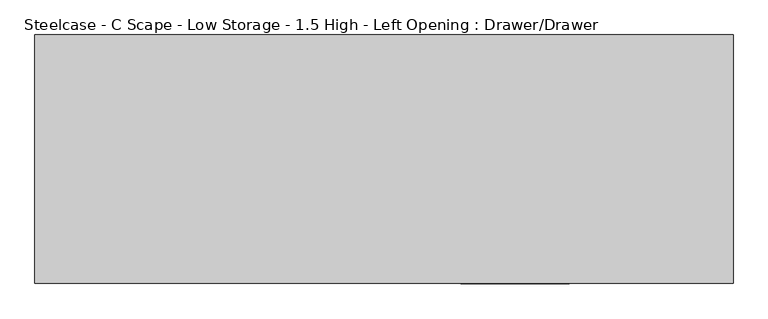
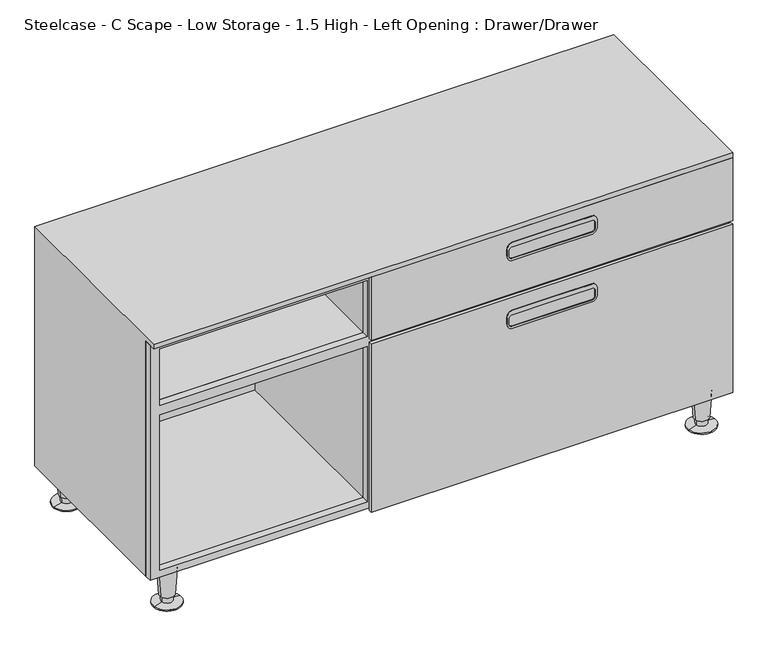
"""IFC4 building model written with IfcOpenShell, lengths in millimetres: furniture geometry, Steelcase - C Scape - Low Storage - 1.5 High - Left Opening : Drawer/Drawer."""

from ifc_helpers import new_model, si_unit, point, frame, frame_2d, origin, place, context, project, spatial, polyline, circle_curve, trimmed, segment, composite_curve, outline, extrude, faceted_brep, source, transform, mapped, element, save
from ifc_brep_helpers import plane_surface, cylinder_surface, revolved_surface, advanced_brep


def steelcase_c_scape_low_storage_1_5_high_left_opening_drawer_81e19a48(model_context):
    return source(origin(), model_context, "Body", "SolidModel", [
        extrude(outline(polyline([(76.2, 0.0), (76.2, 1217.93), (599.4400097, 1217.93), (599.4400097, 0.0), (76.2, 0.0)]), holes=[polyline([(91.4201587, 20.700907), (436.8419, 20.700907), (436.8419, 457.2), (91.4201587, 457.2), (91.4201587, 20.700907)]), polyline([(583.5451587, 1195.959248), (458.7875121, 1195.959248), (458.7875121, 478.1549612), (583.5451587, 478.1549612), (583.5451587, 1195.959248)]), polyline([(458.7875121, 20.700907), (583.5451587, 20.700907), (583.5451587, 457.2), (458.7875121, 457.2), (458.7875121, 20.700907)]), polyline([(91.4201587, 1195.959248), (91.4201587, 478.1549612), (436.8419, 478.1549612), (436.8419, 1195.959248), (91.4201587, 1195.959248)])]), frame((0.0, -419.3540543, 0.0), z_axis=(0.0, 1.0, 0.0), x_axis=(0.0, 0.0, 1.0)), (0.0, 0.0, 1.0), 14.9860039),
        extrude(outline(composite_curve([segment(trimmed(circle_curve(frame_2d((560.7050073, 755.3322442)), 12.7), [point((573.4050073, 755.3322442))], [point((560.7050073, 742.6322442))], False, "CARTESIAN"), True, "CONTINUOUS"), segment(polyline([(560.7050073, 742.6322442), (546.1000363, 742.6322442)]), True, "CONTINUOUS"), segment(trimmed(circle_curve(frame_2d((546.1000363, 755.3322442)), 12.7), [point((546.1000363, 742.6322442))], [point((533.4000363, 755.3322442))], False, "CARTESIAN"), True, "CONTINUOUS"), segment(polyline([(533.4000363, 755.3322442), (533.4000363, 837.565), (533.4000363, 919.7977558)]), True, "CONTINUOUS"), segment(trimmed(circle_curve(frame_2d((546.1000363, 919.7977558)), 12.7), [point((533.4000363, 919.7977558))], [point((546.1000363, 932.4977558))], False, "CARTESIAN"), True, "CONTINUOUS"), segment(polyline([(546.1000363, 932.4977558), (560.7050073, 932.4977558)]), True, "CONTINUOUS"), segment(trimmed(circle_curve(frame_2d((560.7050073, 919.7977558)), 12.7), [point((560.7050073, 932.4977558))], [point((573.4050073, 919.7977558))], False, "CARTESIAN"), True, "CONTINUOUS"), segment(polyline([(573.4050073, 919.7977558), (573.4050073, 837.565), (573.4050073, 755.3322442)]), True, "CONTINUOUS")], self_intersect=False), holes=[composite_curve([segment(trimmed(circle_curve(frame_2d((557.2760257, 753.8098565)), 6.35), [point((557.2760257, 747.4598565))], [point((563.6260257, 753.8098565))], True, "CARTESIAN"), True, "CONTINUOUS"), segment(polyline([(563.6260257, 753.8098565), (563.6260257, 837.565), (563.6260257, 921.3201435)]), True, "CONTINUOUS"), segment(trimmed(circle_curve(frame_2d((557.2760257, 921.3201435)), 6.35), [point((563.6260257, 921.3201435))], [point((557.2760257, 927.6701435))], True, "CARTESIAN"), True, "CONTINUOUS"), segment(polyline([(557.2760257, 927.6701435), (544.5760136, 927.6701435)]), True, "CONTINUOUS"), segment(trimmed(circle_curve(frame_2d((544.5760136, 921.3201435)), 6.35), [point((544.5760136, 927.6701435))], [point((538.2260136, 921.3201435))], True, "CARTESIAN"), True, "CONTINUOUS"), segment(polyline([(538.2260136, 921.3201435), (538.2260136, 837.565), (538.2260136, 753.8098565)]), True, "CONTINUOUS"), segment(trimmed(circle_curve(frame_2d((544.5760136, 753.8098565)), 6.35), [point((538.2260136, 753.8098565))], [point((544.5760136, 747.4598565))], True, "CARTESIAN"), True, "CONTINUOUS"), segment(polyline([(544.5760136, 747.4598565), (557.2760257, 747.4598565)]), True, "CONTINUOUS")], self_intersect=False)]), frame((0.0, -434.34, 0.0), z_axis=(0.0, 1.0, 0.0), x_axis=(0.0, 0.0, 1.0)), (0.0, 0.0, 1.0), 6.35),
        extrude(outline(composite_curve([segment(trimmed(circle_curve(frame_2d((409.5749879, 755.3322442)), 12.7), [point((422.2749879, 755.3322442))], [point((409.5749879, 742.6322442))], False, "CARTESIAN"), True, "CONTINUOUS"), segment(polyline([(409.5749879, 742.6322442), (394.970017, 742.6322442)]), True, "CONTINUOUS"), segment(trimmed(circle_curve(frame_2d((394.970017, 755.3322442)), 12.7), [point((394.970017, 742.6322442))], [point((382.270017, 755.3322442))], False, "CARTESIAN"), True, "CONTINUOUS"), segment(polyline([(382.270017, 755.3322442), (382.270017, 837.565), (382.270017, 919.7977558)]), True, "CONTINUOUS"), segment(trimmed(circle_curve(frame_2d((394.970017, 919.7977558)), 12.7), [point((382.270017, 919.7977558))], [point((394.970017, 932.4977558))], False, "CARTESIAN"), True, "CONTINUOUS"), segment(polyline([(394.970017, 932.4977558), (409.5749879, 932.4977558)]), True, "CONTINUOUS"), segment(trimmed(circle_curve(frame_2d((409.5749879, 919.7977558)), 12.7), [point((409.5749879, 932.4977558))], [point((422.2749879, 919.7977558))], False, "CARTESIAN"), True, "CONTINUOUS"), segment(polyline([(422.2749879, 919.7977558), (422.2749879, 837.565), (422.2749879, 755.3322442)]), True, "CONTINUOUS")], self_intersect=False), holes=[composite_curve([segment(trimmed(circle_curve(frame_2d((406.1460063, 753.8098565)), 6.35), [point((406.1460063, 747.4598565))], [point((412.4960063, 753.8098565))], True, "CARTESIAN"), True, "CONTINUOUS"), segment(polyline([(412.4960063, 753.8098565), (412.4960063, 837.565), (412.4960063, 921.3201435)]), True, "CONTINUOUS"), segment(trimmed(circle_curve(frame_2d((406.1460063, 921.3201435)), 6.35), [point((412.4960063, 921.3201435))], [point((406.1460063, 927.6701435))], True, "CARTESIAN"), True, "CONTINUOUS"), segment(polyline([(406.1460063, 927.6701435), (393.4459942, 927.6701435)]), True, "CONTINUOUS"), segment(trimmed(circle_curve(frame_2d((393.4459942, 921.3201435)), 6.35), [point((393.4459942, 927.6701435))], [point((387.0959942, 921.3201435))], True, "CARTESIAN"), True, "CONTINUOUS"), segment(polyline([(387.0959942, 921.3201435), (387.0959942, 837.565), (387.0959942, 753.8098565)]), True, "CONTINUOUS"), segment(trimmed(circle_curve(frame_2d((393.4459942, 753.8098565)), 6.35), [point((387.0959942, 753.8098565))], [point((393.4459942, 747.4598565))], True, "CARTESIAN"), True, "CONTINUOUS"), segment(polyline([(393.4459942, 747.4598565), (406.1460063, 747.4598565)]), True, "CONTINUOUS")], self_intersect=False)]), frame((0.0, -434.34, 0.0), z_axis=(0.0, 1.0, 0.0), x_axis=(0.0, 0.0, 1.0)), (0.0, 0.0, 1.0), 6.35),
        advanced_brep(
        [(1190.0494568, -31.5218435, 76.2), (1152.3877179, -37.2840847, 76.2), (1171.2185874, -34.4029641, 76.2), (1186.0991088, -32.1262463, 19.05), (1156.3380659, -36.6796819, 19.05), (1183.6695219, -32.4979728, 19.05), (1158.7676529, -36.3079555, 19.05), (1182.9807524, -32.6033544, 5.7545598), (1159.4564224, -36.2025738, 5.7545598), (1200.3296359, -29.9489775, 2.5119506), (1142.1075389, -38.8569507, 2.5119506), (1200.3296359, -29.9489775, 0.0), (1142.1075389, -38.8569507, 0.0), (1171.2185874, -34.4029641, 0.0)],
        [
            (0, 1, circle_curve(frame((1171.2185874, -34.4029641, 76.2), z_axis=(0.0, 0.0, 1.0), x_axis=(0.0, -1.0, 0.0)), 19.05)),
            (1, 2),
            (2, 0),
            (1, 0, circle_curve(frame((1171.2185874, -34.4029641, 76.2), z_axis=(0.0, 0.0, 1.0), x_axis=(0.0, -1.0, 0.0)), 19.05)),
            (3, 4, circle_curve(frame((1171.2185874, -34.4029641, 19.05), z_axis=(0.0, 0.0, 1.0), x_axis=(0.0, -1.0, 0.0)), 15.0536827)),
            (4, 1),
            (0, 3),
            (4, 3, circle_curve(frame((1171.2185874, -34.4029641, 19.05), z_axis=(0.0, 0.0, 1.0), x_axis=(0.0, -1.0, 0.0)), 15.0536827)),
            (5, 6, circle_curve(frame((1171.2185874, -34.4029641, 19.05), z_axis=(0.0, 0.0, 1.0), x_axis=(0.0, -1.0, 0.0)), 12.5958232)),
            (6, 4),
            (3, 5),
            (6, 5, circle_curve(frame((1171.2185874, -34.4029641, 19.05), z_axis=(0.0, 0.0, 1.0), x_axis=(0.0, -1.0, 0.0)), 12.5958232)),
            (7, 8, circle_curve(frame((1171.2185874, -34.4029641, 5.7545598), z_axis=(0.0, 0.0, 1.0), x_axis=(0.0, -1.0, 0.0)), 11.8990387)),
            (8, 6),
            (5, 7),
            (8, 7, circle_curve(frame((1171.2185874, -34.4029641, 5.7545598), z_axis=(0.0, 0.0, 1.0), x_axis=(0.0, -1.0, 0.0)), 11.8990387)),
            (9, 10, circle_curve(frame((1171.2185874, -34.4029641, 2.5119506), z_axis=(0.0, 0.0, 1.0), x_axis=(0.0, -1.0, 0.0)), 29.4498071)),
            (10, 8),
            (7, 9),
            (10, 9, circle_curve(frame((1171.2185874, -34.4029641, 2.5119506), z_axis=(0.0, 0.0, 1.0), x_axis=(0.0, -1.0, 0.0)), 29.4498071)),
            (11, 12, circle_curve(frame((1171.2185874, -34.4029641, 0.0), z_axis=(0.0, 0.0, 1.0), x_axis=(0.0, -1.0, 0.0)), 29.4498071)),
            (12, 10),
            (9, 11),
            (12, 11, circle_curve(frame((1171.2185874, -34.4029641, 0.0), z_axis=(0.0, 0.0, 1.0), x_axis=(0.0, -1.0, 0.0)), 29.4498071)),
            (13, 12),
            (11, 13),
        ],
        [
            plane_surface(frame((1171.2185874, -34.4029641, 76.2), z_axis=(0.0, 0.0, 1.0), x_axis=(0.0, -1.0, 0.0))),
            revolved_surface(polyline([(1171.2185874, -53.4529641, 76.2), (1171.2185874, -49.4566468, 19.05)]), (1171.2185874, -34.4029641, 25.4), (0.0, 0.0, -1.0)),
            plane_surface(frame((1171.2185874, -34.4029641, 19.05), z_axis=(0.0, 0.0, -1.0), x_axis=(0.0, -1.0, 0.0))),
            revolved_surface(polyline([(1171.2185874, -46.9987873, 19.05), (1171.2185874, -46.3020028, 5.7545598)]), (1171.2185874, -34.4029641, 25.4), (0.0, 0.0, -1.0)),
            revolved_surface(polyline([(1171.2185874, -46.3020028, 5.7545598), (1171.2185874, -63.8527712, 2.5119506)]), (1171.2185874, -34.4029641, 25.4), (0.0, 0.0, -1.0)),
            cylinder_surface(frame((1171.2185874, -34.4029641, 25.4), z_axis=(0.0, 0.0, -1.0), x_axis=(0.0, -1.0, 0.0)), 29.4498071),
            plane_surface(frame((1171.2185874, -34.4029641, 0.0), z_axis=(0.0, 0.0, -1.0), x_axis=(0.0, -1.0, 0.0))),
        ],
        [
            (0, [[1, 2, 3]]),
            (0, [[4, -3, -2]]),
            (1, [[5, 6, -1, 7]]),
            (1, [[8, -7, -4, -6]]),
            (2, [[9, 10, -5, 11]]),
            (2, [[12, -11, -8, -10]]),
            (3, [[13, 14, -9, 15]]),
            (3, [[16, -15, -12, -14]]),
            (4, [[17, 18, -13, 19]]),
            (4, [[20, -19, -16, -18]]),
            (5, [[21, 22, -17, 23]]),
            (5, [[24, -23, -20, -22]]),
            (6, [[25, -21, 26]]),
            (6, [[-26, -24, -25]]),
        ],
    ),
        advanced_brep(
        [(1190.0494568, -397.1702762, 76.2), (1152.3877179, -402.9325174, 76.2), (1171.2185874, -400.0513968, 76.2), (1186.0991088, -397.774679, 19.05), (1156.3380659, -402.3281146, 19.05), (1183.6695219, -398.1464055, 19.05), (1158.7676529, -401.9563882, 19.05), (1182.9807524, -398.2517871, 5.7545598), (1159.4564224, -401.8510065, 5.7545598), (1200.3296359, -395.5974102, 2.5119506), (1142.1075389, -404.5053834, 2.5119506), (1200.3296359, -395.5974102, 0.0), (1142.1075389, -404.5053834, 0.0), (1171.2185874, -400.0513968, 0.0)],
        [
            (0, 1, circle_curve(frame((1171.2185874, -400.0513968, 76.2), z_axis=(0.0, 0.0, 1.0), x_axis=(0.0, -1.0, 0.0)), 19.05)),
            (1, 2),
            (2, 0),
            (1, 0, circle_curve(frame((1171.2185874, -400.0513968, 76.2), z_axis=(0.0, 0.0, 1.0), x_axis=(0.0, -1.0, 0.0)), 19.05)),
            (3, 4, circle_curve(frame((1171.2185874, -400.0513968, 19.05), z_axis=(0.0, 0.0, 1.0), x_axis=(0.0, -1.0, 0.0)), 15.0536827)),
            (4, 1),
            (0, 3),
            (4, 3, circle_curve(frame((1171.2185874, -400.0513968, 19.05), z_axis=(0.0, 0.0, 1.0), x_axis=(0.0, -1.0, 0.0)), 15.0536827)),
            (5, 6, circle_curve(frame((1171.2185874, -400.0513968, 19.05), z_axis=(0.0, 0.0, 1.0), x_axis=(0.0, -1.0, 0.0)), 12.5958232)),
            (6, 4),
            (3, 5),
            (6, 5, circle_curve(frame((1171.2185874, -400.0513968, 19.05), z_axis=(0.0, 0.0, 1.0), x_axis=(0.0, -1.0, 0.0)), 12.5958232)),
            (7, 8, circle_curve(frame((1171.2185874, -400.0513968, 5.7545598), z_axis=(0.0, 0.0, 1.0), x_axis=(0.0, -1.0, 0.0)), 11.8990387)),
            (8, 6),
            (5, 7),
            (8, 7, circle_curve(frame((1171.2185874, -400.0513968, 5.7545598), z_axis=(0.0, 0.0, 1.0), x_axis=(0.0, -1.0, 0.0)), 11.8990387)),
            (9, 10, circle_curve(frame((1171.2185874, -400.0513968, 2.5119506), z_axis=(0.0, 0.0, 1.0), x_axis=(0.0, -1.0, 0.0)), 29.4498071)),
            (10, 8),
            (7, 9),
            (10, 9, circle_curve(frame((1171.2185874, -400.0513968, 2.5119506), z_axis=(0.0, 0.0, 1.0), x_axis=(0.0, -1.0, 0.0)), 29.4498071)),
            (11, 12, circle_curve(frame((1171.2185874, -400.0513968, 0.0), z_axis=(0.0, 0.0, 1.0), x_axis=(0.0, -1.0, 0.0)), 29.4498071)),
            (12, 10),
            (9, 11),
            (12, 11, circle_curve(frame((1171.2185874, -400.0513968, 0.0), z_axis=(0.0, 0.0, 1.0), x_axis=(0.0, -1.0, 0.0)), 29.4498071)),
            (13, 12),
            (11, 13),
        ],
        [
            plane_surface(frame((1171.2185874, -400.0513968, 76.2), z_axis=(0.0, 0.0, 1.0), x_axis=(0.0, -1.0, 0.0))),
            revolved_surface(polyline([(1171.2185874, -419.1013968, 76.2), (1171.2185874, -415.1050795, 19.05)]), (1171.2185874, -400.0513968, 25.4), (0.0, 0.0, -1.0)),
            plane_surface(frame((1171.2185874, -400.0513968, 19.05), z_axis=(0.0, 0.0, -1.0), x_axis=(0.0, -1.0, 0.0))),
            revolved_surface(polyline([(1171.2185874, -412.64722, 19.05), (1171.2185874, -411.9504355, 5.7545598)]), (1171.2185874, -400.0513968, 25.4), (0.0, 0.0, -1.0)),
            revolved_surface(polyline([(1171.2185874, -411.9504355, 5.7545598), (1171.2185874, -429.5012039, 2.5119506)]), (1171.2185874, -400.0513968, 25.4), (0.0, 0.0, -1.0)),
            cylinder_surface(frame((1171.2185874, -400.0513968, 25.4), z_axis=(0.0, 0.0, -1.0), x_axis=(0.0, -1.0, 0.0)), 29.4498071),
            plane_surface(frame((1171.2185874, -400.0513968, 0.0), z_axis=(0.0, 0.0, -1.0), x_axis=(0.0, -1.0, 0.0))),
        ],
        [
            (0, [[1, 2, 3]]),
            (0, [[4, -3, -2]]),
            (1, [[5, 6, -1, 7]]),
            (1, [[8, -7, -4, -6]]),
            (2, [[9, 10, -5, 11]]),
            (2, [[12, -11, -8, -10]]),
            (3, [[13, 14, -9, 15]]),
            (3, [[16, -15, -12, -14]]),
            (4, [[17, 18, -13, 19]]),
            (4, [[20, -19, -16, -18]]),
            (5, [[21, 22, -17, 23]]),
            (5, [[24, -23, -20, -22]]),
            (6, [[25, -21, 26]]),
            (6, [[-26, -24, -25]]),
        ],
    ),
        advanced_brep(
        [(65.6621195, -397.1702762, 76.2), (28.0003805, -402.9325174, 76.2), (46.83125, -400.0513968, 76.2), (61.7117714, -397.774679, 19.05), (31.9507286, -402.3281146, 19.05), (59.2821845, -398.1464055, 19.05), (34.3803155, -401.9563882, 19.05), (58.593415, -398.2517871, 5.7545598), (35.069085, -401.8510065, 5.7545598), (75.9422985, -395.5974102, 2.5119506), (17.7202015, -404.5053834, 2.5119506), (75.9422985, -395.5974102, 0.0), (17.7202015, -404.5053834, 0.0), (46.83125, -400.0513968, 0.0)],
        [
            (0, 1, circle_curve(frame((46.83125, -400.0513968, 76.2), z_axis=(0.0, 0.0, 1.0), x_axis=(0.0, -1.0, 0.0)), 19.05)),
            (1, 2),
            (2, 0),
            (1, 0, circle_curve(frame((46.83125, -400.0513968, 76.2), z_axis=(0.0, 0.0, 1.0), x_axis=(0.0, -1.0, 0.0)), 19.05)),
            (3, 4, circle_curve(frame((46.83125, -400.0513968, 19.05), z_axis=(0.0, 0.0, 1.0), x_axis=(0.0, -1.0, 0.0)), 15.0536827)),
            (4, 1),
            (0, 3),
            (4, 3, circle_curve(frame((46.83125, -400.0513968, 19.05), z_axis=(0.0, 0.0, 1.0), x_axis=(0.0, -1.0, 0.0)), 15.0536827)),
            (5, 6, circle_curve(frame((46.83125, -400.0513968, 19.05), z_axis=(0.0, 0.0, 1.0), x_axis=(0.0, -1.0, 0.0)), 12.5958232)),
            (6, 4),
            (3, 5),
            (6, 5, circle_curve(frame((46.83125, -400.0513968, 19.05), z_axis=(0.0, 0.0, 1.0), x_axis=(0.0, -1.0, 0.0)), 12.5958232)),
            (7, 8, circle_curve(frame((46.83125, -400.0513968, 5.7545598), z_axis=(0.0, 0.0, 1.0), x_axis=(0.0, -1.0, 0.0)), 11.8990387)),
            (8, 6),
            (5, 7),
            (8, 7, circle_curve(frame((46.83125, -400.0513968, 5.7545598), z_axis=(0.0, 0.0, 1.0), x_axis=(0.0, -1.0, 0.0)), 11.8990387)),
            (9, 10, circle_curve(frame((46.83125, -400.0513968, 2.5119506), z_axis=(0.0, 0.0, 1.0), x_axis=(0.0, -1.0, 0.0)), 29.4498071)),
            (10, 8),
            (7, 9),
            (10, 9, circle_curve(frame((46.83125, -400.0513968, 2.5119506), z_axis=(0.0, 0.0, 1.0), x_axis=(0.0, -1.0, 0.0)), 29.4498071)),
            (11, 12, circle_curve(frame((46.83125, -400.0513968, 0.0), z_axis=(0.0, 0.0, 1.0), x_axis=(0.0, -1.0, 0.0)), 29.4498071)),
            (12, 10),
            (9, 11),
            (12, 11, circle_curve(frame((46.83125, -400.0513968, 0.0), z_axis=(0.0, 0.0, 1.0), x_axis=(0.0, -1.0, 0.0)), 29.4498071)),
            (13, 12),
            (11, 13),
        ],
        [
            plane_surface(frame((46.83125, -400.0513968, 76.2), z_axis=(0.0, 0.0, 1.0), x_axis=(0.0, -1.0, 0.0))),
            revolved_surface(polyline([(46.83125, -419.1013968, 76.2), (46.83125, -415.1050795, 19.05)]), (46.83125, -400.0513968, 25.4), (0.0, 0.0, -1.0)),
            plane_surface(frame((46.83125, -400.0513968, 19.05), z_axis=(0.0, 0.0, -1.0), x_axis=(0.0, -1.0, 0.0))),
            revolved_surface(polyline([(46.83125, -412.64722, 19.05), (46.83125, -411.9504355, 5.7545598)]), (46.83125, -400.0513968, 25.4), (0.0, 0.0, -1.0)),
            revolved_surface(polyline([(46.83125, -411.9504355, 5.7545598), (46.83125, -429.5012039, 2.5119506)]), (46.83125, -400.0513968, 25.4), (0.0, 0.0, -1.0)),
            cylinder_surface(frame((46.83125, -400.0513968, 25.4), z_axis=(0.0, 0.0, -1.0), x_axis=(0.0, -1.0, 0.0)), 29.4498071),
            plane_surface(frame((46.83125, -400.0513968, 0.0), z_axis=(0.0, 0.0, -1.0), x_axis=(0.0, -1.0, 0.0))),
        ],
        [
            (0, [[1, 2, 3]]),
            (0, [[4, -3, -2]]),
            (1, [[5, 6, -1, 7]]),
            (1, [[8, -7, -4, -6]]),
            (2, [[9, 10, -5, 11]]),
            (2, [[12, -11, -8, -10]]),
            (3, [[13, 14, -9, 15]]),
            (3, [[16, -15, -12, -14]]),
            (4, [[17, 18, -13, 19]]),
            (4, [[20, -19, -16, -18]]),
            (5, [[21, 22, -17, 23]]),
            (5, [[24, -23, -20, -22]]),
            (6, [[25, -21, 26]]),
            (6, [[-26, -24, -25]]),
        ],
    ),
        advanced_brep(
        [(65.6621195, -31.5218435, 76.2), (28.0003805, -37.2840847, 76.2), (46.83125, -34.4029641, 76.2), (61.7117714, -32.1262463, 19.05), (31.9507286, -36.6796819, 19.05), (59.2821845, -32.4979728, 19.05), (34.3803155, -36.3079555, 19.05), (58.593415, -32.6033544, 5.7545598), (35.069085, -36.2025738, 5.7545598), (75.9422985, -29.9489775, 2.5119506), (17.7202015, -38.8569507, 2.5119506), (75.9422985, -29.9489775, 0.0), (17.7202015, -38.8569507, 0.0), (46.83125, -34.4029641, 0.0)],
        [
            (0, 1, circle_curve(frame((46.83125, -34.4029641, 76.2), z_axis=(0.0, 0.0, 1.0), x_axis=(0.0, -1.0, 0.0)), 19.05)),
            (1, 2),
            (2, 0),
            (1, 0, circle_curve(frame((46.83125, -34.4029641, 76.2), z_axis=(0.0, 0.0, 1.0), x_axis=(0.0, -1.0, 0.0)), 19.05)),
            (3, 4, circle_curve(frame((46.83125, -34.4029641, 19.05), z_axis=(0.0, 0.0, 1.0), x_axis=(0.0, -1.0, 0.0)), 15.0536827)),
            (4, 1),
            (0, 3),
            (4, 3, circle_curve(frame((46.83125, -34.4029641, 19.05), z_axis=(0.0, 0.0, 1.0), x_axis=(0.0, -1.0, 0.0)), 15.0536827)),
            (5, 6, circle_curve(frame((46.83125, -34.4029641, 19.05), z_axis=(0.0, 0.0, 1.0), x_axis=(0.0, -1.0, 0.0)), 12.5958232)),
            (6, 4),
            (3, 5),
            (6, 5, circle_curve(frame((46.83125, -34.4029641, 19.05), z_axis=(0.0, 0.0, 1.0), x_axis=(0.0, -1.0, 0.0)), 12.5958232)),
            (7, 8, circle_curve(frame((46.83125, -34.4029641, 5.7545598), z_axis=(0.0, 0.0, 1.0), x_axis=(0.0, -1.0, 0.0)), 11.8990387)),
            (8, 6),
            (5, 7),
            (8, 7, circle_curve(frame((46.83125, -34.4029641, 5.7545598), z_axis=(0.0, 0.0, 1.0), x_axis=(0.0, -1.0, 0.0)), 11.8990387)),
            (9, 10, circle_curve(frame((46.83125, -34.4029641, 2.5119506), z_axis=(0.0, 0.0, 1.0), x_axis=(0.0, -1.0, 0.0)), 29.4498071)),
            (10, 8),
            (7, 9),
            (10, 9, circle_curve(frame((46.83125, -34.4029641, 2.5119506), z_axis=(0.0, 0.0, 1.0), x_axis=(0.0, -1.0, 0.0)), 29.4498071)),
            (11, 12, circle_curve(frame((46.83125, -34.4029641, 0.0), z_axis=(0.0, 0.0, 1.0), x_axis=(0.0, -1.0, 0.0)), 29.4498071)),
            (12, 10),
            (9, 11),
            (12, 11, circle_curve(frame((46.83125, -34.4029641, 0.0), z_axis=(0.0, 0.0, 1.0), x_axis=(0.0, -1.0, 0.0)), 29.4498071)),
            (13, 12),
            (11, 13),
        ],
        [
            plane_surface(frame((46.83125, -34.4029641, 76.2), z_axis=(0.0, 0.0, 1.0), x_axis=(0.0, -1.0, 0.0))),
            revolved_surface(polyline([(46.83125, -53.4529641, 76.2), (46.83125, -49.4566468, 19.05)]), (46.83125, -34.4029641, 25.4), (0.0, 0.0, -1.0)),
            plane_surface(frame((46.83125, -34.4029641, 19.05), z_axis=(0.0, 0.0, -1.0), x_axis=(0.0, -1.0, 0.0))),
            revolved_surface(polyline([(46.83125, -46.9987873, 19.05), (46.83125, -46.3020028, 5.7545598)]), (46.83125, -34.4029641, 25.4), (0.0, 0.0, -1.0)),
            revolved_surface(polyline([(46.83125, -46.3020028, 5.7545598), (46.83125, -63.8527712, 2.5119506)]), (46.83125, -34.4029641, 25.4), (0.0, 0.0, -1.0)),
            cylinder_surface(frame((46.83125, -34.4029641, 25.4), z_axis=(0.0, 0.0, -1.0), x_axis=(0.0, -1.0, 0.0)), 29.4498071),
            plane_surface(frame((46.83125, -34.4029641, 0.0), z_axis=(0.0, 0.0, -1.0), x_axis=(0.0, -1.0, 0.0))),
        ],
        [
            (0, [[1, 2, 3]]),
            (0, [[4, -3, -2]]),
            (1, [[5, 6, -1, 7]]),
            (1, [[8, -7, -4, -6]]),
            (2, [[9, 10, -5, 11]]),
            (2, [[12, -11, -8, -10]]),
            (3, [[13, 14, -9, 15]]),
            (3, [[16, -15, -12, -14]]),
            (4, [[17, 18, -13, 19]]),
            (4, [[20, -19, -16, -18]]),
            (5, [[21, 22, -17, 23]]),
            (5, [[24, -23, -20, -22]]),
            (6, [[25, -21, 26]]),
            (6, [[-26, -24, -25]]),
        ],
    ),
        faceted_brep([(0.0, 0.0, 76.2), (0.0, -404.3680504, 76.2), (0.0, -404.3680504, 599.4400097), (0.0, -433.07, 599.4400097), (0.0, -433.07, 609.6), (0.0, 0.0, 609.6), (1217.93, -404.3680504, 76.2), (1217.93, -404.3680504, 599.4400097), (1195.959248, -404.3680504, 599.4400097), (1195.959248, -404.3680504, 458.7875121), (463.5487203, -404.3680504, 458.7875121), (463.5487203, -404.3680504, 599.4400097), (457.2, -404.3680504, 599.4400097), (457.2, -404.3680504, 458.7875121), (20.700907, -404.3680504, 458.7875121), (20.700907, -404.3680504, 599.4400097), (1195.959248, -404.3680504, 91.4201587), (463.5487203, -404.3680504, 91.4201587), (463.5487203, -404.3680504, 436.8419), (1195.959248, -404.3680504, 436.8419), (457.2, -404.3680504, 91.4201587), (20.700907, -404.3680504, 91.4201587), (20.700907, -404.3680504, 436.8419), (457.2, -404.3680504, 436.8419), (20.700907, -9.525, 91.4201587), (20.700907, -9.525, 436.8419), (20.700907, -9.525, 458.7875121), (20.700907, -9.525, 599.4400097), (457.2, -9.525, 91.4201587), (457.2, -9.525, 436.8419), (457.2, -9.525, 458.7875121), (457.2, -9.525, 599.4400097), (463.5487203, -9.525, 91.4201587), (463.5487203, -9.525, 436.8419), (463.5487203, -9.525, 458.7875121), (463.5487203, -9.525, 599.4400097), (1195.959248, -9.525, 91.4201587), (1195.959248, -9.525, 436.8419), (1195.959248, -9.525, 458.7875121), (1195.959248, -9.525, 599.4400097), (1217.93, 0.0, 76.2), (1217.93, 0.0, 609.6), (1217.93, -433.07, 609.6), (1217.93, -433.07, 599.4400097)], [[[0, 1, 2, 3, 4, 5]], [[1, 6, 7, 8, 9, 10, 11, 12, 13, 14, 15, 2], [16, 17, 18, 19], [20, 21, 22, 23]], [[21, 24, 25, 22]], [[14, 26, 27, 15]], [[24, 28, 29, 25]], [[26, 30, 31, 27]], [[28, 20, 23, 29]], [[30, 13, 12, 31]], [[17, 32, 33, 18]], [[10, 34, 35, 11]], [[32, 36, 37, 33]], [[34, 38, 39, 35]], [[36, 16, 19, 37]], [[38, 9, 8, 39]], [[6, 40, 41, 42, 43, 7]], [[41, 40, 0, 5]], [[17, 16, 36, 32]], [[21, 20, 28, 24]], [[0, 40, 6, 1]], [[10, 9, 38, 34]], [[14, 13, 30, 26]], [[19, 18, 33, 37]], [[23, 22, 25, 29]], [[5, 4, 42, 41]], [[43, 3, 2, 15, 27, 31, 12, 11, 35, 39, 8, 7]], [[42, 4, 3, 43]]]),
        extrude(outline(polyline([(457.2, -426.7186111), (1217.93, -426.7186111), (1217.93, -433.07), (457.2, -433.07), (457.2, -426.7186111)])), frame((0.0, 0.0, 458.7875121), z_axis=(0.0, 0.0, 1.0), x_axis=(1.0, 0.0, 0.0)), (0.0, 0.0, 1.0), 140.6524976),
        extrude(outline(polyline([(457.2, -426.7186111), (1217.93, -426.7186111), (1217.93, -433.07), (457.2, -433.07), (457.2, -426.7186111)])), frame((0.0, 0.0, 76.2), z_axis=(0.0, 0.0, 1.0), x_axis=(1.0, 0.0, 0.0)), (0.0, 0.0, 1.0), 374.6499879),
    ])


if __name__ == "__main__":
    model = new_model("IFC4")
    model_context = context("Model", 3, world=origin())
    ifc_project = project(units=[si_unit("LENGTHUNIT", "METRE", prefix="MILLI")], contexts=[model_context])
    site = spatial("IfcSite", under=ifc_project)
    building = spatial("IfcBuilding", under=site)
    placement = place(None, origin())
    steelcase_c_scape_low_storage_1_5_high_left_opening_drawer_shape = steelcase_c_scape_low_storage_1_5_high_left_opening_drawer_81e19a48(model_context)
    element("IfcFurniture", 1, ObjectType="Steelcase - C Scape - Low Storage - 1.5 High - Left Opening : Drawer/Drawer", at=placement, inside=building, context=model_context, shape_type="MappedRepresentation", body=[
        mapped(steelcase_c_scape_low_storage_1_5_high_left_opening_drawer_shape, transform((0.0, 0.0, 0.0), x_axis=(1.0, 0.0, 0.0), y_axis=(0.0, 1.0, 0.0), z_axis=(0.0, 0.0, 1.0))),
    ])
    save(model, "model.ifc")
